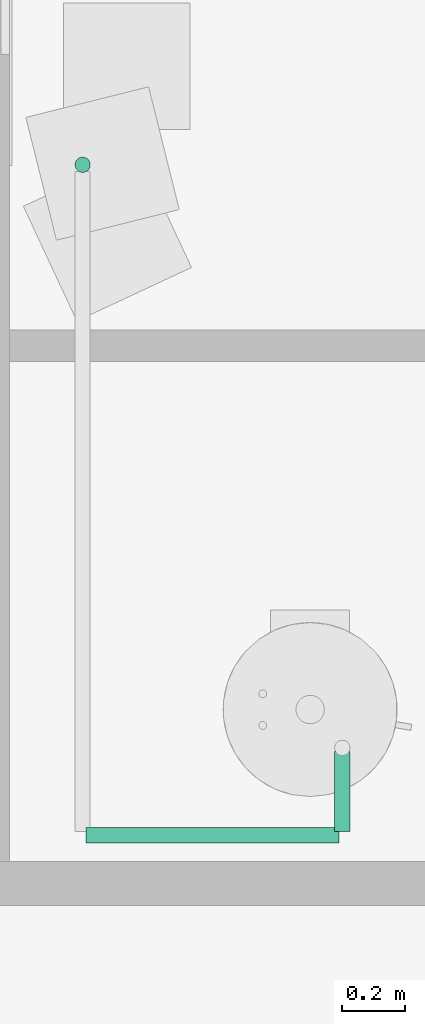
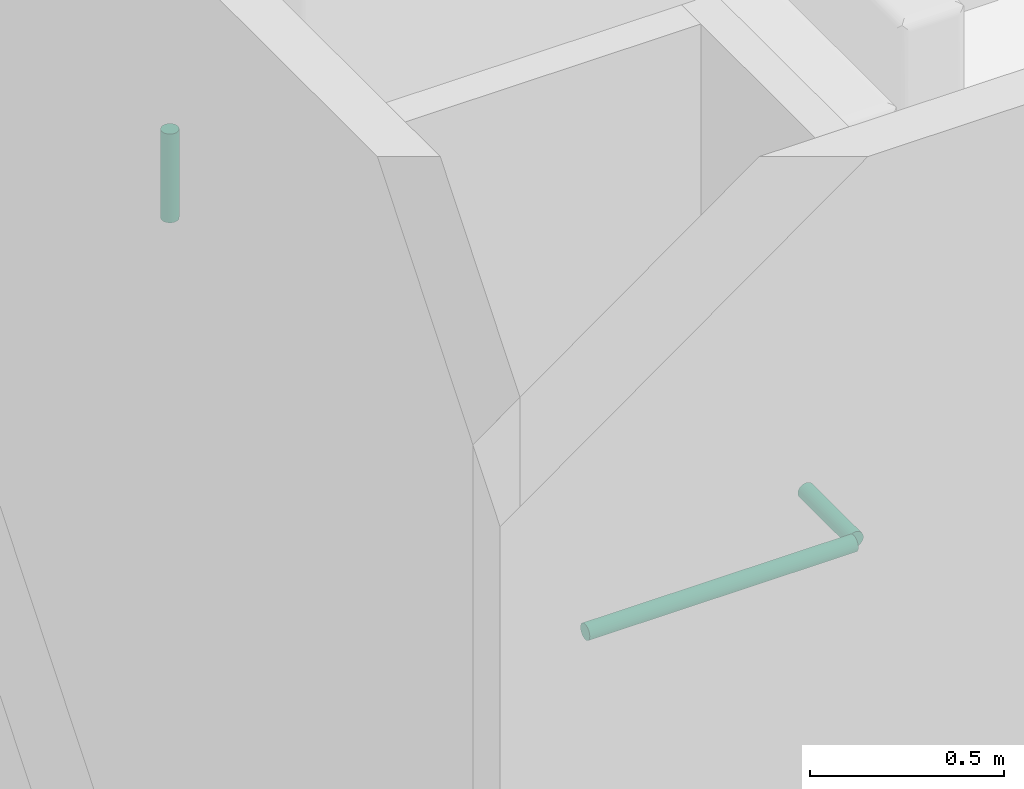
# One storey, part 48 of 69: 3 pipe segments.
"""IFC4 building model written with IfcOpenShell, lengths in centimetres."""

import ifcopenshell
import ifcopenshell.guid

model = None  # the IFC model being written
_history = None  # IfcOwnerHistory: only IFC2X3 demands one
_inside = {}  # id of a spatial element -> (the spatial element, [elements in it])
_under = {}  # id of a project, library or spatial element -> (it, [spatial elements below it])
_declared = {}  # id of a project -> (the project, [libraries it declares])
_typed = {}  # id of a type object -> (the type object, [elements of that type])
_made_of = {}  # id of a material, layer set ... -> (it, [elements and type objects made of it])


def new_model(schema):
    """Start an empty IFC model of exactly this schema.

    Asked for "IFC4X3", IfcOpenShell would pick the latest addendum, in which some entities
    have other attributes; the version numbers below select the first issue.
    IFC2X3 requires an IfcOwnerHistory on every rooted entity: one is made here for all.
    """
    global model, _history
    if schema == "IFC4X3":
        model = ifcopenshell.file(schema_version=(4, 3, 0, 0))
    else:
        model = ifcopenshell.file(schema=schema)
    _inside.clear()
    _under.clear()
    _declared.clear()
    _typed.clear()
    _made_of.clear()
    _history = None
    if model.schema == "IFC2X3":
        org = make("IfcOrganization", Name="unknown")
        user = make(
            "IfcPersonAndOrganization",
            ThePerson=make("IfcPerson", FamilyName="unknown"),
            TheOrganization=org,
        )
        app = make(
            "IfcApplication",
            ApplicationDeveloper=org,
            Version="unknown",
            ApplicationFullName="unknown",
            ApplicationIdentifier="unknown",
        )
        _history = make(
            "IfcOwnerHistory",
            OwningUser=user,
            OwningApplication=app,
            ChangeAction="ADDED",
            CreationDate=0,
        )
    return model


def make(cls, **values):
    """One entity of the class cls with the attributes given. An attribute that is None is left unset."""
    return model.create_entity(
        cls, **{name: value for name, value in values.items() if value is not None}
    )


def entity(cls, *values):
    """Any entity or typed value of the class cls, its attributes in the order of the schema. None: left unset."""
    e = model.create_entity(cls)
    for i, value in enumerate(values):
        if value is not None:
            e[i] = value
    return e


def rooted(cls, **values):
    """An entity with a GlobalId (a new one), such as an element, a storey or a relation."""
    return make(cls, GlobalId=ifcopenshell.guid.new(), OwnerHistory=_history, **values)


def si_unit(unit_type, name, prefix=None):
    """IfcSIUnit, for example si_unit("LENGTHUNIT", "METRE", prefix="MILLI")."""
    return make("IfcSIUnit", UnitType=unit_type, Prefix=prefix, Name=name)


def converted_unit(unit_type, name, factor, base, dimensions=None, offset=None):
    """IfcConversionBasedUnit, such as the inch: factor (a typed value) times the base unit."""
    return make(
        "IfcConversionBasedUnit"
        if offset is None
        else "IfcConversionBasedUnitWithOffset",
        ConversionOffset=offset,
        Dimensions=None
        if dimensions is None
        else entity("IfcDimensionalExponents", *dimensions),
        UnitType=unit_type,
        Name=name,
        ConversionFactor=make(
            "IfcMeasureWithUnit", ValueComponent=factor, UnitComponent=base
        ),
    )


def derived_unit(unit_type, elements):
    """IfcDerivedUnit: a product of units, each with its exponent."""
    return make(
        "IfcDerivedUnit",
        Elements=[
            make("IfcDerivedUnitElement", Unit=unit, Exponent=power)
            for unit, power in elements
        ],
        UnitType=unit_type,
    )


def assignment(units):
    """IfcUnitAssignment: the units of a project."""
    return None if units is None else make("IfcUnitAssignment", Units=units)


def point(xyz):
    """IfcCartesianPoint."""
    return None if xyz is None else make("IfcCartesianPoint", Coordinates=xyz)


def direction(xyz):
    """IfcDirection."""
    return None if xyz is None else make("IfcDirection", DirectionRatios=xyz)


def frame(location, z_axis=None, x_axis=None):
    """IfcAxis2Placement3D, a coordinate frame: its origin and axes. An axis left out is left unset."""
    return make(
        "IfcAxis2Placement3D",
        Location=point(location),
        Axis=direction(z_axis),
        RefDirection=direction(x_axis),
    )


def origin():
    """The frame at (0, 0, 0) with its axes left unset."""
    return frame((0.0, 0.0, 0.0))


def place(relative_to, where):
    """IfcLocalPlacement: puts the frame where relative to a parent placement (None: the world)."""
    return make(
        "IfcLocalPlacement", PlacementRelTo=relative_to, RelativePlacement=where
    )


def context(
    kind, dimensions, precision=None, world=None, true_north=None, identifier=None
):
    """IfcGeometricRepresentationContext, for example the 3D "Model" context."""
    return make(
        "IfcGeometricRepresentationContext",
        ContextIdentifier=identifier,
        ContextType=kind,
        CoordinateSpaceDimension=dimensions,
        Precision=precision,
        WorldCoordinateSystem=world,
        TrueNorth=true_north,
    )


def subcontext(parent, identifier, kind, view, scale=None):
    """IfcGeometricRepresentationSubContext, for example "Body" below "Model"."""
    return make(
        "IfcGeometricRepresentationSubContext",
        ContextIdentifier=identifier,
        ContextType=kind,
        ParentContext=parent,
        TargetScale=scale,
        TargetView=view,
    )


def project(units=None, contexts=None):
    """IfcProject with its units and contexts."""
    return rooted(
        "IfcProject",
        Name="project",
        RepresentationContexts=contexts,
        UnitsInContext=assignment(units),
    )


def spatial(cls, under=None, at=None, **own):
    """A site, building, storey or space (cls), placed at a placement, below another one or the project."""
    s = rooted(cls, ObjectPlacement=at, **own)
    if under is not None:
        _under.setdefault(under.id(), (under, []))[1].append(s)
    return s


def point_list(points):
    """IfcCartesianPointList2D or 3D."""
    cls = (
        "IfcCartesianPointList2D" if len(points[0]) == 2 else "IfcCartesianPointList3D"
    )
    return make(cls, CoordList=points)


def arc(*indices):
    """IfcArcIndex: an arc through three numbered points of an indexed curve."""
    return model.create_entity("IfcArcIndex", indices)


def indexed_curve(points, segments=None, self_intersect=None):
    """IfcIndexedPolyCurve: lines and arcs through numbered points (the first is 1)."""
    return make(
        "IfcIndexedPolyCurve",
        Points=point_list(points),
        Segments=segments,
        SelfIntersect=self_intersect,
    )


def outline(outer, holes=None, kind="AREA"):
    """IfcArbitraryClosedProfileDef: a profile drawn as a closed curve; with holes, ...WithVoids."""
    if holes is None:
        return make("IfcArbitraryClosedProfileDef", ProfileType=kind, OuterCurve=outer)
    return make(
        "IfcArbitraryProfileDefWithVoids",
        ProfileType=kind,
        OuterCurve=outer,
        InnerCurves=holes,
    )


def extrude(swept, where, along, depth):
    """IfcExtrudedAreaSolid: the profile swept, set in the frame where, extruded along a direction by depth."""
    return make(
        "IfcExtrudedAreaSolid",
        SweptArea=swept,
        Position=where,
        ExtrudedDirection=direction(along),
        Depth=depth,
    )


def shape(context_of_items, identifier, shape_type, items):
    """IfcShapeRepresentation: the items that make up one representation, for example the "Body"."""
    return make(
        "IfcShapeRepresentation",
        ContextOfItems=context_of_items,
        RepresentationIdentifier=identifier,
        RepresentationType=shape_type,
        Items=items,
    )


def made_of(thing, what):
    """Note that an element or type object is made of a material, layer set ...; save() writes the relation."""
    if what is not None:
        _made_of.setdefault(what.id(), (what, []))[1].append(thing)
    return thing


def type_object(cls, material=None, **own):
    """A type object (cls), such as IfcWallType, which elements share."""
    return made_of(rooted(cls, **own), material)


def element(
    cls,
    number,
    at=None,
    inside=None,
    cuts=None,
    type_object=None,
    material=None,
    context=None,
    identifier="Body",
    shape_type=None,
    held_by="IfcProductDefinitionShape",
    body=None,
    shapes=None,
    **own,
):
    """One element of the class cls, such as IfcWall. Its Tag is "e" and its number.

    at: its placement. inside: the storey or other place that contains it. cuts: it is an
    opening in that element (IfcRelVoidsElement). A single representation is given by context,
    identifier, shape_type and body (its items); several are given by shapes. held_by: the class
    of the entity that holds the representations. save() writes the other relations.
    """
    e = rooted(cls, Tag="e%d" % number, ObjectPlacement=at, **own)
    if body is not None:
        shapes = [shape(context, identifier, shape_type, body)]
    if shapes is not None:
        e.Representation = make(held_by, Representations=shapes)
    if inside is not None:
        _inside.setdefault(inside.id(), (inside, []))[1].append(e)
    if cuts is not None:
        rooted(
            "IfcRelVoidsElement", RelatingBuildingElement=cuts, RelatedOpeningElement=e
        )
    if type_object is not None:
        _typed.setdefault(type_object.id(), (type_object, []))[1].append(e)
    return made_of(e, material)


def aggregate(whole, parts):
    """IfcRelAggregates: a whole, such as a stair, and the parts it consists of."""
    return rooted("IfcRelAggregates", RelatingObject=whole, RelatedObjects=parts)


def save(model, path):
    """Write the relations noted so far, then the file.

    IfcRelAggregates (storeys below a building ...), IfcRelContainedInSpatialStructure (elements
    in a storey), IfcRelDefinesByType, IfcRelAssociatesMaterial and IfcRelDeclares: one each for
    every whole, place, type object, material and project.
    """
    for whole, parts in _under.values():
        aggregate(whole, parts)
    for where, things in _inside.values():
        rooted(
            "IfcRelContainedInSpatialStructure",
            RelatedElements=things,
            RelatingStructure=where,
        )
    for kind, things in _typed.values():
        rooted("IfcRelDefinesByType", RelatedObjects=things, RelatingType=kind)
    for what, things in _made_of.values():
        rooted("IfcRelAssociatesMaterial", RelatedObjects=things, RelatingMaterial=what)
    for by, libraries in _declared.values():
        rooted("IfcRelDeclares", RelatingContext=by, RelatedDefinitions=libraries)
    model.write(path)


model = new_model("IFC4")

# Units and contexts
model_context = context("Model", 3, precision=0.001, world=origin(), true_north=direction((6.123233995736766e-17, 1.0)))
body_context = subcontext(model_context, "Body", "Model", "MODEL_VIEW")
ifc_project = project(units=[si_unit("LENGTHUNIT", "METRE", prefix="CENTI"), si_unit("AREAUNIT", "SQUARE_METRE"), si_unit("VOLUMEUNIT", "CUBIC_METRE"), derived_unit("THERMALTRANSMITTANCEUNIT", [(si_unit("MASSUNIT", "GRAM", prefix="KILO"), 1), (si_unit("THERMODYNAMICTEMPERATUREUNIT", "KELVIN"), -1), (si_unit("TIMEUNIT", "SECOND"), -3)]), converted_unit("PLANEANGLEUNIT", "DEGREE", entity("IfcPlaneAngleMeasure", 0.017453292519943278), si_unit("PLANEANGLEUNIT", "RADIAN"), dimensions=[0, 0, 0, 0, 0, 0, 0]), derived_unit("MASSDENSITYUNIT", [(si_unit("MASSUNIT", "GRAM", prefix="KILO"), 1), (si_unit("LENGTHUNIT", "METRE"), -3)]), derived_unit("VAPORPERMEABILITYUNIT", [(si_unit("LENGTHUNIT", "METRE"), -1), (si_unit("TIMEUNIT", "SECOND"), 1)]), derived_unit("USERDEFINED", [(si_unit("MASSUNIT", "GRAM", prefix="KILO"), 1), (si_unit("TIMEUNIT", "SECOND"), -3), (si_unit("LENGTHUNIT", "METRE"), 3), (si_unit("ELECTRICCURRENTUNIT", "AMPERE"), -2)]), derived_unit("SPECIFICHEATCAPACITYUNIT", [(si_unit("THERMODYNAMICTEMPERATUREUNIT", "KELVIN"), -1), (si_unit("LENGTHUNIT", "METRE"), 2), (si_unit("TIMEUNIT", "SECOND"), -2)]), derived_unit("THERMALCONDUCTANCEUNIT", [(si_unit("MASSUNIT", "GRAM", prefix="KILO"), 1), (si_unit("THERMODYNAMICTEMPERATUREUNIT", "KELVIN"), -1), (si_unit("TIMEUNIT", "SECOND"), -3), (si_unit("LENGTHUNIT", "METRE"), 1)]), si_unit("PRESSUREUNIT", "PASCAL"), derived_unit("MODULUSOFELASTICITYUNIT", [(si_unit("MASSUNIT", "GRAM", prefix="KILO"), 1), (si_unit("LENGTHUNIT", "METRE"), -1), (si_unit("TIMEUNIT", "SECOND"), -2)]), derived_unit("THERMALEXPANSIONCOEFFICIENTUNIT", [(si_unit("THERMODYNAMICTEMPERATUREUNIT", "KELVIN"), -1)])], contexts=[model_context])

# Site, building, storey
site_placement = place(None, origin())
site = spatial("IfcSite", under=ifc_project, at=site_placement, Name="Default", CompositionType="ELEMENT")
building_placement = place(site_placement, origin())
building = spatial("IfcBuilding", under=site, at=building_placement, Name="IDS Escape Game Building", CompositionType="ELEMENT")
storey_placement = place(building_placement, origin())
storey = spatial("IfcBuildingStorey", under=building, at=storey_placement, Name="00_Ground Floor", CompositionType="ELEMENT", Elevation=0.0)

# Pipe segments
pipe_segment_type = type_object("IfcPipeSegmentType", Name="Pipe Types:Piping Aluminum", PredefinedType="NOTDEFINED")
pipe_segment_1_placement = place(storey_placement, origin())
element("IfcPipeSegment", 1, at=pipe_segment_1_placement, inside=storey, type_object=pipe_segment_type, Name="Pipe Types:Piping Aluminum", ObjectType="Pipe Types:Piping Aluminum", PredefinedType="NOTDEFINED", context=body_context, shape_type="SweptSolid", body=[
    extrude(outline(indexed_curve([(2.412999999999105, -2.165734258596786e-13), (1.7062486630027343, 1.7062486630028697), (3.6842275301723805e-29, 2.4130000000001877), (-1.7062486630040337, 1.7062486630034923), (-2.4130000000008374, -1.6243006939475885e-13), (-1.7062486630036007, -1.706248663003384), (-3.684227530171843e-29, -2.412999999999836), (1.706248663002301, -1.7062486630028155)], segments=[arc(1, 2, 3), arc(3, 4, 5), arc(5, 6, 7), arc(7, 8, 1)], self_intersect=False)), frame((2983.146716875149, 2573.264827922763, 242.0), z_axis=(1.0, 0.0, 0.0), x_axis=(0.0, 1.0, 0.0)), (0.0, 0.0, 1.0), 79.90328312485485),
])
pipe_segment_2_placement = place(storey_placement, origin())
element("IfcPipeSegment", 2, at=pipe_segment_2_placement, inside=storey, type_object=pipe_segment_type, Name="Pipe Types:Piping Aluminum", ObjectType="Pipe Types:Piping Aluminum", PredefinedType="NOTDEFINED", context=body_context, shape_type="SweptSolid", body=[
    extrude(outline(indexed_curve([(2.4129999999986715, -2.7071678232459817e-14), (1.7062486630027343, 1.7062486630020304), (1.7325874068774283e-12, 2.412999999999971), (-1.7062486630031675, 1.7062486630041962), (-2.413000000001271, -2.7071678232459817e-14), (-1.7062486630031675, -1.7062486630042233), (1.7325874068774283e-12, -2.413000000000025), (1.7062486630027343, -1.7062486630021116)], segments=[arc(1, 2, 3), arc(3, 4, 5), arc(5, 6, 7), arc(7, 8, 1)], self_intersect=False)), frame((3064.1500000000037, 2574.364827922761, 242.0), z_axis=(0.0, 1.0, 0.0), x_axis=(-1.0, 0.0, 0.0)), (0.0, 0.0, 1.0), 25.43517207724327),
])
pipe_segment_3_placement = place(storey_placement, origin())
element("IfcPipeSegment", 3, at=pipe_segment_3_placement, inside=storey, type_object=pipe_segment_type, Name="Pipe Types:Piping Aluminum", ObjectType="Pipe Types:Piping Aluminum", PredefinedType="NOTDEFINED", context=body_context, shape_type="SweptSolid", body=[
    extrude(outline(indexed_curve([(2.412999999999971, 0.0), (1.7062486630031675, 1.7062486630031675), (0.0, 2.412999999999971), (-1.7062486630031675, 1.7062486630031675), (-2.412999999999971, 0.0), (-1.7062486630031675, -1.7062486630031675), (0.0, -2.412999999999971), (1.7062486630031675, -1.7062486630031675)], segments=[arc(1, 2, 3), arc(3, 4, 5), arc(5, 6, 7), arc(7, 8, 1)], self_intersect=False)), frame((2982.0467168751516, 2785.26482792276, 244.0999999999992), z_axis=(0.0, 0.0, 1.0), x_axis=(-1.0, 0.0, 0.0)), (0.0, 0.0, 1.0), 27.90000000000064),
])

save(model, "model.ifc")
